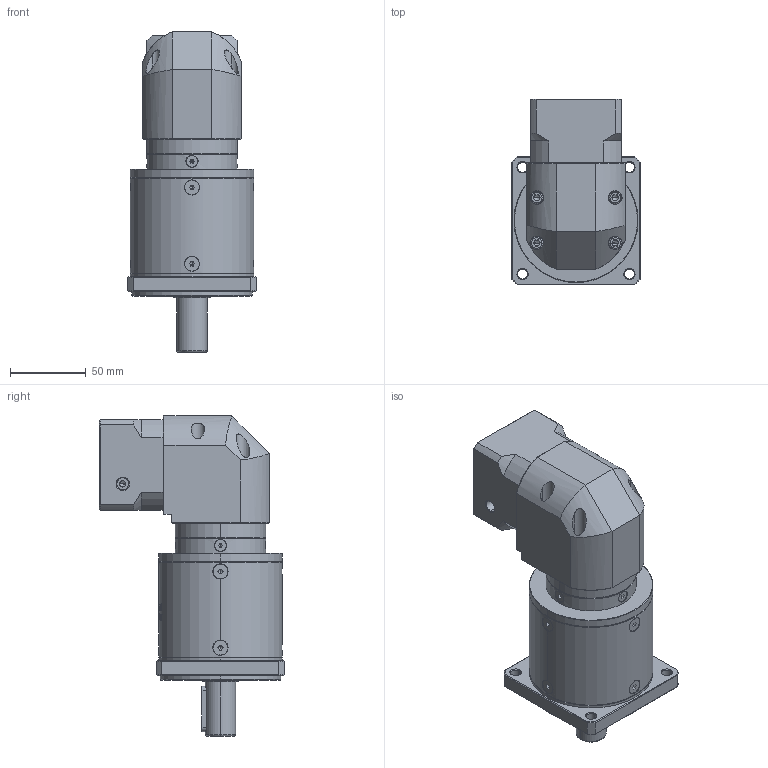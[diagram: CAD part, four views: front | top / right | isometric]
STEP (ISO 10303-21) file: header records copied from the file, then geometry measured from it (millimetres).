
FILE_DESCRIPTION (( 'STEP AP214' ), '1' );
FILE_NAME ('ZFR080-D20-L3-P2-11-50-70-M4.step', '2023-08-25T07:19:07', ( '' ), ( '' ), 'SwSTEP 2.0', 'SolidWorks 2016', '' );
FILE_SCHEMA (( 'AUTOMOTIVE_DESIGN' ));
Length unit declared in the file: millimetre
Products named in the file (1): ZFR080-D20-L3-P2-11-50-70-M4
Bounding box: 85 x 122.7 x 212 mm (x, y, z)
Volume: 888669.8 mm3; surface area: 106913.1 mm2
Topology: 17 solids, 18 shells, 2441 faces, 6389 edges, 4063 vertices
Faces by surface type: plane 1176, cylinder 442, bspline 394, cone 381, torus 48
Entity records: 124731 total; most frequent: CARTESIAN_POINT 42593, ORIENTED_EDGE 12686, DIRECTION 9851, EDGE_CURVE 6343, VERTEX_POINT 4063, LINE 3355, VECTOR 3355, AXIS2_PLACEMENT_3D 3248
